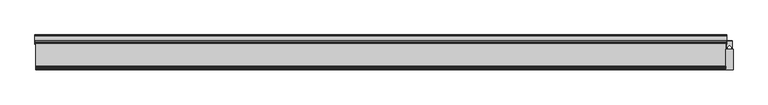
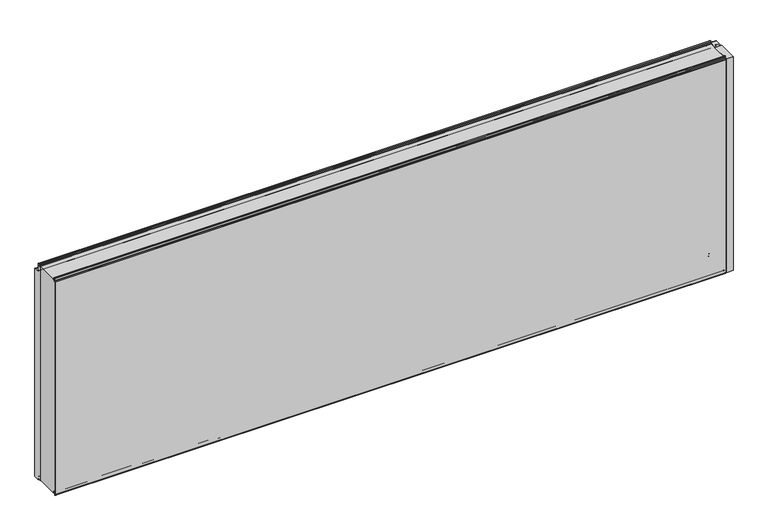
"""IFC4 building model written with IfcOpenShell, lengths in millimetres: plate geometry, Fronttop : Fronttop 150/1000."""

import ifcopenshell
import ifcopenshell.guid

model = None  # the IFC model being written
_history = None  # IfcOwnerHistory: only IFC2X3 demands one
_inside = {}  # id of a spatial element -> (the spatial element, [elements in it])
_under = {}  # id of a project, library or spatial element -> (it, [spatial elements below it])
_declared = {}  # id of a project -> (the project, [libraries it declares])
_typed = {}  # id of a type object -> (the type object, [elements of that type])
_made_of = {}  # id of a material, layer set ... -> (it, [elements and type objects made of it])


def new_model(schema):
    """Start an empty IFC model of exactly this schema.

    Asked for "IFC4X3", IfcOpenShell would pick the latest addendum, in which some entities
    have other attributes; the version numbers below select the first issue.
    IFC2X3 requires an IfcOwnerHistory on every rooted entity: one is made here for all.
    """
    global model, _history
    if schema == "IFC4X3":
        model = ifcopenshell.file(schema_version=(4, 3, 0, 0))
    else:
        model = ifcopenshell.file(schema=schema)
    _inside.clear()
    _under.clear()
    _declared.clear()
    _typed.clear()
    _made_of.clear()
    _history = None
    if model.schema == "IFC2X3":
        org = make("IfcOrganization", Name="unknown")
        user = make(
            "IfcPersonAndOrganization",
            ThePerson=make("IfcPerson", FamilyName="unknown"),
            TheOrganization=org,
        )
        app = make(
            "IfcApplication",
            ApplicationDeveloper=org,
            Version="unknown",
            ApplicationFullName="unknown",
            ApplicationIdentifier="unknown",
        )
        _history = make(
            "IfcOwnerHistory",
            OwningUser=user,
            OwningApplication=app,
            ChangeAction="ADDED",
            CreationDate=0,
        )
    return model


def make(cls, **values):
    """One entity of the class cls with the attributes given. An attribute that is None is left unset."""
    return model.create_entity(
        cls, **{name: value for name, value in values.items() if value is not None}
    )


def rooted(cls, **values):
    """An entity with a GlobalId (a new one), such as an element, a storey or a relation."""
    return make(cls, GlobalId=ifcopenshell.guid.new(), OwnerHistory=_history, **values)


def si_unit(unit_type, name, prefix=None):
    """IfcSIUnit, for example si_unit("LENGTHUNIT", "METRE", prefix="MILLI")."""
    return make("IfcSIUnit", UnitType=unit_type, Prefix=prefix, Name=name)


def assignment(units):
    """IfcUnitAssignment: the units of a project."""
    return None if units is None else make("IfcUnitAssignment", Units=units)


def point(xyz):
    """IfcCartesianPoint."""
    return None if xyz is None else make("IfcCartesianPoint", Coordinates=xyz)


def direction(xyz):
    """IfcDirection."""
    return None if xyz is None else make("IfcDirection", DirectionRatios=xyz)


def frame(location, z_axis=None, x_axis=None):
    """IfcAxis2Placement3D, a coordinate frame: its origin and axes. An axis left out is left unset."""
    return make(
        "IfcAxis2Placement3D",
        Location=point(location),
        Axis=direction(z_axis),
        RefDirection=direction(x_axis),
    )


def frame_2d(location, x_axis=None):
    """IfcAxis2Placement2D, a coordinate frame in the plane: its origin and x axis."""
    return make(
        "IfcAxis2Placement2D", Location=point(location), RefDirection=direction(x_axis)
    )


def origin():
    """The frame at (0, 0, 0) with its axes left unset."""
    return frame((0.0, 0.0, 0.0))


def origin_with_axes():
    """The frame at (0, 0, 0) with the z axis (0, 0, 1) and the x axis (1, 0, 0) written out."""
    return frame((0.0, 0.0, 0.0), z_axis=(0.0, 0.0, 1.0), x_axis=(1.0, 0.0, 0.0))


def place(relative_to, where):
    """IfcLocalPlacement: puts the frame where relative to a parent placement (None: the world)."""
    return make(
        "IfcLocalPlacement", PlacementRelTo=relative_to, RelativePlacement=where
    )


def context(
    kind, dimensions, precision=None, world=None, true_north=None, identifier=None
):
    """IfcGeometricRepresentationContext, for example the 3D "Model" context."""
    return make(
        "IfcGeometricRepresentationContext",
        ContextIdentifier=identifier,
        ContextType=kind,
        CoordinateSpaceDimension=dimensions,
        Precision=precision,
        WorldCoordinateSystem=world,
        TrueNorth=true_north,
    )


def project(units=None, contexts=None):
    """IfcProject with its units and contexts."""
    return rooted(
        "IfcProject",
        Name="project",
        RepresentationContexts=contexts,
        UnitsInContext=assignment(units),
    )


def spatial(cls, under=None, at=None, **own):
    """A site, building, storey or space (cls), placed at a placement, below another one or the project."""
    s = rooted(cls, ObjectPlacement=at, **own)
    if under is not None:
        _under.setdefault(under.id(), (under, []))[1].append(s)
    return s


def polyline(points):
    """IfcPolyline through the points."""
    return make("IfcPolyline", Points=[point(p) for p in points])


def circle_curve(where, radius):
    """IfcCircle in the frame where."""
    return make("IfcCircle", Position=where, Radius=radius)


def trimmed(basis, trim1, trim2, sense, master):
    """IfcTrimmedCurve: the piece of a basis curve between two trims."""
    return make(
        "IfcTrimmedCurve",
        BasisCurve=basis,
        Trim1=trim1,
        Trim2=trim2,
        SenseAgreement=sense,
        MasterRepresentation=master,
    )


def segment(curve, same_sense, transition):
    """IfcCompositeCurveSegment."""
    return make(
        "IfcCompositeCurveSegment",
        Transition=transition,
        SameSense=same_sense,
        ParentCurve=curve,
    )


def composite_curve(segments, self_intersect=None):
    """IfcCompositeCurve: segments joined end to end."""
    return make("IfcCompositeCurve", Segments=segments, SelfIntersect=self_intersect)


def outline(outer, holes=None, kind="AREA"):
    """IfcArbitraryClosedProfileDef: a profile drawn as a closed curve; with holes, ...WithVoids."""
    if holes is None:
        return make("IfcArbitraryClosedProfileDef", ProfileType=kind, OuterCurve=outer)
    return make(
        "IfcArbitraryProfileDefWithVoids",
        ProfileType=kind,
        OuterCurve=outer,
        InnerCurves=holes,
    )


def extrude(swept, where, along, depth):
    """IfcExtrudedAreaSolid: the profile swept, set in the frame where, extruded along a direction by depth."""
    return make(
        "IfcExtrudedAreaSolid",
        SweptArea=swept,
        Position=where,
        ExtrudedDirection=direction(along),
        Depth=depth,
    )


def shape(context_of_items, identifier, shape_type, items):
    """IfcShapeRepresentation: the items that make up one representation, for example the "Body"."""
    return make(
        "IfcShapeRepresentation",
        ContextOfItems=context_of_items,
        RepresentationIdentifier=identifier,
        RepresentationType=shape_type,
        Items=items,
    )


def source(mapping_origin, context_of_items, identifier, shape_type, items):
    """IfcRepresentationMap: a shape defined once, which mapped items show again and again."""
    return make(
        "IfcRepresentationMap",
        MappingOrigin=mapping_origin,
        MappedRepresentation=shape(context_of_items, identifier, shape_type, items),
    )


def transform(
    local_origin,
    x_axis=None,
    y_axis=None,
    z_axis=None,
    scale=None,
    scale2=None,
    scale3=None,
    uniform=True,
):
    """IfcCartesianTransformationOperator3D, or its non-uniform kind. x_axis, y_axis, z_axis: its Axis1, 2, 3."""
    if uniform:
        return make(
            "IfcCartesianTransformationOperator3D",
            Axis1=direction(x_axis),
            Axis2=direction(y_axis),
            LocalOrigin=point(local_origin),
            Scale=scale,
            Axis3=direction(z_axis),
        )
    return make(
        "IfcCartesianTransformationOperator3DnonUniform",
        Axis1=direction(x_axis),
        Axis2=direction(y_axis),
        LocalOrigin=point(local_origin),
        Scale=scale,
        Axis3=direction(z_axis),
        Scale2=scale2,
        Scale3=scale3,
    )


def mapped(mapping_source, mapping_target):
    """IfcMappedItem: shows the shape of a source again, moved by a transform."""
    return make(
        "IfcMappedItem", MappingSource=mapping_source, MappingTarget=mapping_target
    )


def made_of(thing, what):
    """Note that an element or type object is made of a material, layer set ...; save() writes the relation."""
    if what is not None:
        _made_of.setdefault(what.id(), (what, []))[1].append(thing)
    return thing


def element(
    cls,
    number,
    at=None,
    inside=None,
    cuts=None,
    type_object=None,
    material=None,
    context=None,
    identifier="Body",
    shape_type=None,
    held_by="IfcProductDefinitionShape",
    body=None,
    shapes=None,
    **own,
):
    """One element of the class cls, such as IfcWall. Its Tag is "e" and its number.

    at: its placement. inside: the storey or other place that contains it. cuts: it is an
    opening in that element (IfcRelVoidsElement). A single representation is given by context,
    identifier, shape_type and body (its items); several are given by shapes. held_by: the class
    of the entity that holds the representations. save() writes the other relations.
    """
    e = rooted(cls, Tag="e%d" % number, ObjectPlacement=at, **own)
    if body is not None:
        shapes = [shape(context, identifier, shape_type, body)]
    if shapes is not None:
        e.Representation = make(held_by, Representations=shapes)
    if inside is not None:
        _inside.setdefault(inside.id(), (inside, []))[1].append(e)
    if cuts is not None:
        rooted(
            "IfcRelVoidsElement", RelatingBuildingElement=cuts, RelatedOpeningElement=e
        )
    if type_object is not None:
        _typed.setdefault(type_object.id(), (type_object, []))[1].append(e)
    return made_of(e, material)


def aggregate(whole, parts):
    """IfcRelAggregates: a whole, such as a stair, and the parts it consists of."""
    return rooted("IfcRelAggregates", RelatingObject=whole, RelatedObjects=parts)


def save(model, path):
    """Write the relations noted so far, then the file.

    IfcRelAggregates (storeys below a building ...), IfcRelContainedInSpatialStructure (elements
    in a storey), IfcRelDefinesByType, IfcRelAssociatesMaterial and IfcRelDeclares: one each for
    every whole, place, type object, material and project.
    """
    for whole, parts in _under.values():
        aggregate(whole, parts)
    for where, things in _inside.values():
        rooted(
            "IfcRelContainedInSpatialStructure",
            RelatedElements=things,
            RelatingStructure=where,
        )
    for kind, things in _typed.values():
        rooted("IfcRelDefinesByType", RelatedObjects=things, RelatingType=kind)
    for what, things in _made_of.values():
        rooted("IfcRelAssociatesMaterial", RelatedObjects=things, RelatingMaterial=what)
    for by, libraries in _declared.values():
        rooted("IfcRelDeclares", RelatingContext=by, RelatedDefinitions=libraries)
    model.write(path)


def plane_surface(at):
    """IfcPlane: the flat surface through the origin of the frame at, square to its z axis."""
    return make("IfcPlane", Position=at)


def cylinder_surface(at, radius):
    """IfcCylindricalSurface: all points at the distance radius from the z axis of the frame at."""
    return make("IfcCylindricalSurface", Position=at, Radius=radius)


def revolved_surface(curve, axis_point, axis_direction):
    """IfcSurfaceOfRevolution: the curve turned about the line through axis_point along axis_direction."""
    return make(
        "IfcSurfaceOfRevolution",
        SweptCurve=make("IfcArbitraryOpenProfileDef", ProfileType="CURVE", Curve=curve),
        AxisPosition=make("IfcAxis1Placement", Location=point(axis_point), Axis=direction(axis_direction)),
    )


def advanced_brep(points, edges, surfaces, faces):
    """IfcAdvancedBrep: a solid bounded by faces that lie on surfaces and meet in shared edges.

    An edge is (start, end): straight between two places in points (the first is 0);
    or (start, end, curve); or (start, end, curve, False) where it runs against its curve.
    A face is (place in surfaces, loops), or (place, loops, False) where it looks against
    its surface's normal. A loop lists edges by number (the first is 1), with a minus sign
    where the edge is run from its end to its start. The first loop is the outer one.
    """
    corners = [point(p) for p in points]
    vertices = [make("IfcVertexPoint", VertexGeometry=c) for c in corners]
    made = []
    for start, end, *more in edges:
        made.append(
            make(
                "IfcEdgeCurve",
                EdgeStart=vertices[start],
                EdgeEnd=vertices[end],
                EdgeGeometry=more[0] if more else make("IfcPolyline", Points=[corners[start], corners[end]]),
                SameSense=more[1] if len(more) > 1 else True,
            )
        )
    hull = []
    for where, loops, *sense in faces:
        bounds = []
        for j, loop in enumerate(loops):
            ring = [make("IfcOrientedEdge", EdgeElement=made[abs(k) - 1], Orientation=k > 0) for k in loop]
            bounds.append(
                make(
                    "IfcFaceOuterBound" if j == 0 else "IfcFaceBound",
                    Bound=make("IfcEdgeLoop", EdgeList=ring),
                    Orientation=True,
                )
            )
        hull.append(make("IfcAdvancedFace", Bounds=bounds, FaceSurface=surfaces[where], SameSense=sense[0] if sense else True))
    return make("IfcAdvancedBrep", Outer=make("IfcClosedShell", CfsFaces=hull))


def plate_9b882203(model_context):
    return source(origin(), model_context, "Body", "SolidModel", [
        advanced_brep(
        [(-1486.5, 124.0, 1008.0), (-1486.5, 121.0, 1008.0), (-1486.5, 121.0, 1004.0), (-1486.5, 117.0, 1000.0), (-1486.5, 115.0, 1000.0), (-1486.5, 115.0, 1001.0), (-1486.5, 117.0, 1001.0), (-1486.5, 120.0, 1004.0), (-1486.5, 120.0, 1008.0), (-1486.5, 125.0, 1008.0), (-1486.5, 125.0, 1000.0), (-1486.5, 124.0, 1000.0), (1486.5, 125.0, 1008.0), (1486.5, 120.0, 1008.0), (1486.5, 120.0, 1004.0), (1486.5, 117.0, 1001.0), (1486.5, 115.0, 1001.0), (1486.5, 115.0, 1000.0), (1486.5, 117.0, 1000.0), (1486.5, 121.0, 1004.0), (1486.5, 121.0, 1008.0), (1486.5, 124.0, 1008.0), (1486.5, 124.0, 1000.0), (1486.5, 125.0, 1000.0), (-1486.5, 117.0, 2.0), (1486.5, 117.0, 2.0), (1486.5, 115.0, 2.0), (-1486.5, 115.0, 2.0), (-1486.5, 119.0, 4.0), (1486.5, 119.0, 4.0), (-1486.5, 119.0, 8.0), (1486.5, 119.0, 8.0), (-1486.5, 126.0, 8.0), (1486.5, 126.0, 8.0), (-1486.5, 126.0, 0.0), (1486.5, 126.0, 0.0), (-1486.5, 129.0, -3.0), (1486.5, 129.0, -3.0), (-1486.5, 125.0, -3.0), (-1487.5, 125.0, -3.0), (-1487.5, 147.0, -3.0), (-1486.5, 147.0, -3.0), (1486.5, 147.0, -3.0), (1487.5, 147.0, -3.0), (1487.5, 125.0, -3.0), (1486.5, 125.0, -3.0), (-1486.5, 150.0, 0.0), (1486.5, 150.0, 0.0), (-1487.5, 150.0, 0.0), (-1487.5, 150.0, 969.0), (-1486.5, 150.0, 969.0), (1486.5, 150.0, 969.0), (1487.5, 150.0, 969.0), (1487.5, 150.0, 0.0), (-1486.5, 147.0, 972.0), (1486.5, 147.0, 972.0), (-1487.5, 147.0, 972.0), (-1487.5, 128.0, 972.0), (-1486.5, 128.0, 972.0), (1486.5, 128.0, 972.0), (1487.5, 128.0, 972.0), (1487.5, 147.0, 972.0), (-1486.5, 125.0, 975.0), (1486.5, 125.0, 975.0), (-1487.5, 125.0, 975.0), (-1487.5, 125.0, 1000.0), (1487.5, 125.0, 1000.0), (1487.5, 125.0, 975.0), (-1486.5, 124.0, 975.0), (1486.5, 124.0, 975.0), (-1486.5, 128.0, 971.0), (1486.5, 128.0, 971.0), (-1486.5, 147.0, 971.0), (1486.5, 147.0, 971.0), (-1486.5, 149.0, 969.0), (1486.5, 149.0, 969.0), (-1486.5, 149.0, 0.0), (1486.5, 149.0, 0.0), (-1486.5, 147.0, -2.0), (1486.5, 147.0, -2.0), (-1486.5, 129.0, -2.0), (1486.5, 129.0, -2.0), (-1486.5, 127.0, 0.0), (1486.5, 127.0, 0.0), (-1486.5, 127.0, 8.0), (1486.5, 127.0, 8.0), (-1486.5, 118.0, 8.0), (1486.5, 118.0, 8.0), (-1486.5, 118.0, 4.0), (1486.5, 118.0, 4.0), (-1486.5, 117.0, 3.0), (1486.5, 117.0, 3.0), (-1486.5, 115.0, 3.0), (1486.5, 115.0, 3.0), (1487.5, 110.0, 1000.0), (1487.5, 110.0, 0.0), (1487.5, 125.0, 0.0), (1486.5, 125.0, 0.0), (1486.5, 110.0, 0.0), (1486.5, 110.0, 1000.0), (-1487.5, 125.0, 0.0), (-1487.5, 110.0, 0.0), (-1487.5, 110.0, 1000.0), (-1486.5, 110.0, 1000.0), (-1486.5, 110.0, 0.0), (-1486.5, 125.0, 0.0)],
        [
            (0, 1, circle_curve(frame((-1486.5, 122.5, 1008.0), z_axis=(1.0, 0.0, 0.0), x_axis=(0.0, -1.0, 0.0)), 1.5)),
            (1, 2),
            (2, 3, circle_curve(frame((-1486.5, 117.0, 1004.0), z_axis=(-1.0, 0.0, 0.0), x_axis=(0.0, -1.0, 0.0)), 4.0)),
            (3, 4),
            (4, 5),
            (5, 6),
            (6, 7, circle_curve(frame((-1486.5, 117.0, 1004.0), z_axis=(1.0, 0.0, 0.0), x_axis=(0.0, -1.0, 0.0)), 3.0)),
            (7, 8),
            (8, 9, circle_curve(frame((-1486.5, 122.5, 1008.0), z_axis=(-1.0, 0.0, 0.0), x_axis=(0.0, -1.0, 0.0)), 2.5)),
            (9, 10),
            (10, 11),
            (11, 0),
            (12, 13, circle_curve(frame((1486.5, 122.5, 1008.0), z_axis=(1.0, 0.0, 0.0), x_axis=(0.0, -1.0, 0.0)), 2.5)),
            (13, 14),
            (14, 15, circle_curve(frame((1486.5, 117.0, 1004.0), z_axis=(-1.0, 0.0, 0.0), x_axis=(0.0, -1.0, 0.0)), 3.0)),
            (15, 16),
            (16, 17),
            (17, 18),
            (18, 19, circle_curve(frame((1486.5, 117.0, 1004.0), z_axis=(1.0, 0.0, 0.0), x_axis=(0.0, -1.0, 0.0)), 4.0)),
            (19, 20),
            (20, 21, circle_curve(frame((1486.5, 122.5, 1008.0), z_axis=(-1.0, 0.0, 0.0), x_axis=(0.0, -1.0, 0.0)), 1.5)),
            (21, 22),
            (22, 23),
            (23, 12),
            (24, 25),
            (25, 26),
            (26, 27),
            (27, 24),
            (24, 28, circle_curve(frame((-1486.5, 117.0, 4.0), z_axis=(1.0, 0.0, 0.0), x_axis=(0.0, -1.0, 0.0)), 2.0)),
            (28, 29),
            (29, 25, circle_curve(frame((1486.5, 117.0, 4.0), z_axis=(-1.0, 0.0, 0.0), x_axis=(0.0, -1.0, 0.0)), 2.0)),
            (28, 30),
            (30, 31),
            (31, 29),
            (30, 32, circle_curve(frame((-1486.5, 122.5, 8.0), z_axis=(-1.0, 0.0, 0.0), x_axis=(0.0, -1.0, 0.0)), 3.5)),
            (32, 33),
            (33, 31, circle_curve(frame((1486.5, 122.5, 8.0), z_axis=(1.0, 0.0, 0.0), x_axis=(0.0, -1.0, 0.0)), 3.5)),
            (32, 34),
            (34, 35),
            (35, 33),
            (34, 36, circle_curve(frame((-1486.5, 129.0, 0.0), z_axis=(1.0, 0.0, 0.0), x_axis=(0.0, -1.0, 0.0)), 3.0)),
            (36, 37),
            (37, 35, circle_curve(frame((1486.5, 129.0, 0.0), z_axis=(-1.0, 0.0, 0.0), x_axis=(0.0, -1.0, 0.0)), 3.0)),
            (36, 38),
            (38, 39),
            (39, 40),
            (40, 41),
            (41, 42),
            (42, 43),
            (43, 44),
            (44, 45),
            (45, 37),
            (41, 46, circle_curve(frame((-1486.5, 147.0, 0.0), z_axis=(1.0, 0.0, 0.0), x_axis=(0.0, -1.0, 0.0)), 3.0)),
            (46, 47),
            (47, 42, circle_curve(frame((1486.5, 147.0, 0.0), z_axis=(-1.0, 0.0, 0.0), x_axis=(0.0, -1.0, 0.0)), 3.0)),
            (46, 48),
            (48, 49),
            (49, 50),
            (50, 51),
            (51, 52),
            (52, 53),
            (53, 47),
            (50, 54, circle_curve(frame((-1486.5, 147.0, 969.0), z_axis=(1.0, 0.0, 0.0), x_axis=(0.0, -1.0, 0.0)), 3.0)),
            (54, 55),
            (55, 51, circle_curve(frame((1486.5, 147.0, 969.0), z_axis=(-1.0, 0.0, 0.0), x_axis=(0.0, -1.0, 0.0)), 3.0)),
            (54, 56),
            (56, 57),
            (57, 58),
            (58, 59),
            (59, 60),
            (60, 61),
            (61, 55),
            (58, 62, circle_curve(frame((-1486.5, 128.0, 975.0), z_axis=(-1.0, 0.0, 0.0), x_axis=(0.0, -1.0, 0.0)), 3.0)),
            (62, 63),
            (63, 59, circle_curve(frame((1486.5, 128.0, 975.0), z_axis=(1.0, 0.0, 0.0), x_axis=(0.0, -1.0, 0.0)), 3.0)),
            (62, 64),
            (64, 65),
            (65, 10),
            (9, 12),
            (23, 66),
            (66, 67),
            (67, 63),
            (8, 13),
            (7, 14),
            (6, 15),
            (5, 16),
            (4, 17),
            (4, 3),
            (3, 18),
            (18, 17),
            (2, 19),
            (1, 20),
            (0, 21),
            (11, 68),
            (68, 69),
            (69, 22),
            (68, 70, circle_curve(frame((-1486.5, 128.0, 975.0), z_axis=(1.0, 0.0, 0.0), x_axis=(0.0, -1.0, 0.0)), 4.0)),
            (70, 71),
            (71, 69, circle_curve(frame((1486.5, 128.0, 975.0), z_axis=(-1.0, 0.0, 0.0), x_axis=(0.0, -1.0, 0.0)), 4.0)),
            (70, 72),
            (72, 73),
            (73, 71),
            (72, 74, circle_curve(frame((-1486.5, 147.0, 969.0), z_axis=(-1.0, 0.0, 0.0), x_axis=(0.0, -1.0, 0.0)), 2.0)),
            (74, 75),
            (75, 73, circle_curve(frame((1486.5, 147.0, 969.0), z_axis=(1.0, 0.0, 0.0), x_axis=(0.0, -1.0, 0.0)), 2.0)),
            (74, 76),
            (76, 77),
            (77, 75),
            (76, 78, circle_curve(frame((-1486.5, 147.0, 0.0), z_axis=(-1.0, 0.0, 0.0), x_axis=(0.0, -1.0, 0.0)), 2.0)),
            (78, 79),
            (79, 77, circle_curve(frame((1486.5, 147.0, 0.0), z_axis=(1.0, 0.0, 0.0), x_axis=(0.0, -1.0, 0.0)), 2.0)),
            (78, 80),
            (80, 81),
            (81, 79),
            (80, 82, circle_curve(frame((-1486.5, 129.0, 0.0), z_axis=(-1.0, 0.0, 0.0), x_axis=(0.0, -1.0, 0.0)), 2.0)),
            (82, 83),
            (83, 81, circle_curve(frame((1486.5, 129.0, 0.0), z_axis=(1.0, 0.0, 0.0), x_axis=(0.0, -1.0, 0.0)), 2.0)),
            (82, 84),
            (84, 85),
            (85, 83),
            (84, 86, circle_curve(frame((-1486.5, 122.5, 8.0), z_axis=(1.0, 0.0, 0.0), x_axis=(0.0, -1.0, 0.0)), 4.5)),
            (86, 87),
            (87, 85, circle_curve(frame((1486.5, 122.5, 8.0), z_axis=(-1.0, 0.0, 0.0), x_axis=(0.0, -1.0, 0.0)), 4.5)),
            (86, 88),
            (88, 89),
            (89, 87),
            (88, 90, circle_curve(frame((-1486.5, 117.0, 4.0), z_axis=(-1.0, 0.0, 0.0), x_axis=(0.0, -1.0, 0.0)), 1.0)),
            (90, 91),
            (91, 89, circle_curve(frame((1486.5, 117.0, 4.0), z_axis=(1.0, 0.0, 0.0), x_axis=(0.0, -1.0, 0.0)), 1.0)),
            (90, 92),
            (92, 93),
            (93, 91),
            (26, 93),
            (92, 27),
            (66, 94),
            (94, 95),
            (95, 96),
            (96, 44),
            (43, 53, circle_curve(frame((1487.5, 147.0, 0.0), z_axis=(1.0, 0.0, 0.0), x_axis=(0.0, 1.0, 0.0)), 3.0)),
            (52, 61, circle_curve(frame((1487.5, 147.0, 969.0), z_axis=(1.0, 0.0, 0.0), x_axis=(0.0, 1.0, 0.0)), 3.0)),
            (60, 67, circle_curve(frame((1487.5, 128.0, 975.0), z_axis=(-1.0, 0.0, 0.0), x_axis=(0.0, 1.0, 0.0)), 3.0)),
            (45, 97),
            (97, 98),
            (98, 99),
            (99, 17),
            (18, 22),
            (99, 94),
            (98, 95),
            (97, 96),
            (64, 57, circle_curve(frame((-1487.5, 128.0, 975.0), z_axis=(1.0, 0.0, 0.0), x_axis=(0.0, 1.0, 0.0)), 3.0)),
            (56, 49, circle_curve(frame((-1487.5, 147.0, 969.0), z_axis=(-1.0, 0.0, 0.0), x_axis=(0.0, 1.0, 0.0)), 3.0)),
            (48, 40, circle_curve(frame((-1487.5, 147.0, 0.0), z_axis=(-1.0, 0.0, 0.0), x_axis=(0.0, 1.0, 0.0)), 3.0)),
            (39, 100),
            (100, 101),
            (101, 102),
            (102, 65),
            (103, 104),
            (104, 105),
            (105, 38),
            (11, 3),
            (4, 103),
            (102, 103),
            (101, 104),
            (100, 105),
        ],
        [
            plane_surface(frame((-1486.5, 0.0, 0.0), z_axis=(-1.0, 0.0, 0.0), x_axis=(0.0, 0.0, 1.0))),
            plane_surface(frame((1486.5, 0.0, 0.0), z_axis=(1.0, 0.0, 0.0), x_axis=(0.0, 0.0, 1.0))),
            plane_surface(frame((-1486.5, 117.0, 2.0), z_axis=(0.0, 0.0, -1.0), x_axis=(1.0, 0.0, 0.0))),
            cylinder_surface(frame((-1486.5, 117.0, 4.0), z_axis=(-1.0, 0.0, 0.0), x_axis=(0.0, -1.0, 0.0)), 2.0),
            plane_surface(frame((-1486.5, 119.0, 8.0), z_axis=(0.0, 1.0, 0.0), x_axis=(1.0, 0.0, 0.0))),
            revolved_surface(polyline([(1486.5, 119.0, 8.0), (-1486.5, 119.0, 8.0)]), (-1486.5, 122.5, 8.0), (1.0, 0.0, 0.0)),
            plane_surface(frame((-1486.5, 126.0, 0.0), z_axis=(0.0, -1.0, 0.0), x_axis=(1.0, 0.0, 0.0))),
            cylinder_surface(frame((-1486.5, 129.0, 0.0), z_axis=(-1.0, 0.0, 0.0), x_axis=(0.0, -1.0, 0.0)), 3.0),
            plane_surface(frame((-1486.5, 147.0, -3.0), z_axis=(0.0, 0.0, -1.0), x_axis=(1.0, 0.0, 0.0))),
            cylinder_surface(frame((-1486.5, 147.0, 0.0), z_axis=(-1.0, 0.0, 0.0), x_axis=(0.0, -1.0, 0.0)), 3.0),
            plane_surface(frame((-1486.5, 150.0, 969.0), z_axis=(0.0, 1.0, 0.0), x_axis=(1.0, 0.0, 0.0))),
            cylinder_surface(frame((-1486.5, 147.0, 969.0), z_axis=(-1.0, 0.0, 0.0), x_axis=(0.0, -1.0, 0.0)), 3.0),
            plane_surface(frame((-1486.5, 128.0, 972.0), z_axis=(0.0, 0.0, 1.0), x_axis=(1.0, 0.0, 0.0))),
            revolved_surface(polyline([(1486.5, 125.0, 975.0), (-1486.5, 125.0, 975.0)]), (-1486.5, 128.0, 975.0), (1.0, 0.0, 0.0)),
            plane_surface(frame((-1486.5, 125.0, 1008.0), z_axis=(0.0, 1.0, 0.0), x_axis=(1.0, 0.0, 0.0))),
            cylinder_surface(frame((-1486.5, 122.5, 1008.0), z_axis=(-1.0, 0.0, 0.0), x_axis=(0.0, -1.0, 0.0)), 2.5),
            plane_surface(frame((-1486.5, 120.0, 1004.0), z_axis=(0.0, -1.0, 0.0), x_axis=(1.0, 0.0, 0.0))),
            revolved_surface(polyline([(1486.5, 114.0, 1004.0), (-1486.5, 114.0, 1004.0)]), (-1486.5, 117.0, 1004.0), (1.0, 0.0, 0.0)),
            plane_surface(frame((-1486.5, 115.0, 1001.0), z_axis=(0.0, 0.0, 1.0), x_axis=(1.0, 0.0, 0.0))),
            plane_surface(frame((-1486.5, 115.0, 1000.0), z_axis=(0.0, -1.0, 0.0), x_axis=(1.0, 0.0, 0.0))),
            plane_surface(frame((-1486.5, 117.0, 1000.0), z_axis=(0.0, 0.0, -1.0), x_axis=(1.0, 0.0, 0.0))),
            cylinder_surface(frame((-1486.5, 117.0, 1004.0), z_axis=(-1.0, 0.0, 0.0), x_axis=(0.0, -1.0, 0.0)), 4.0),
            plane_surface(frame((-1486.5, 121.0, 1008.0), z_axis=(0.0, 1.0, 0.0), x_axis=(1.0, 0.0, 0.0))),
            revolved_surface(polyline([(1486.5, 121.0, 1008.0), (-1486.5, 121.0, 1008.0)]), (-1486.5, 122.5, 1008.0), (1.0, 0.0, 0.0)),
            plane_surface(frame((-1486.5, 124.0, 975.0), z_axis=(0.0, -1.0, 0.0), x_axis=(1.0, 0.0, 0.0))),
            cylinder_surface(frame((-1486.5, 128.0, 975.0), z_axis=(-1.0, 0.0, 0.0), x_axis=(0.0, -1.0, 0.0)), 4.0),
            plane_surface(frame((-1486.5, 147.0, 971.0), z_axis=(0.0, 0.0, -1.0), x_axis=(1.0, 0.0, 0.0))),
            revolved_surface(polyline([(1486.5, 145.0, 969.0), (-1486.5, 145.0, 969.0)]), (-1486.5, 147.0, 969.0), (1.0, 0.0, 0.0)),
            plane_surface(frame((-1486.5, 149.0, 0.0), z_axis=(0.0, -1.0, 0.0), x_axis=(1.0, 0.0, 0.0))),
            revolved_surface(polyline([(1486.5, 145.0, 0.0), (-1486.5, 145.0, 0.0)]), (-1486.5, 147.0, 0.0), (1.0, 0.0, 0.0)),
            plane_surface(frame((-1486.5, 129.0, -2.0), z_axis=(0.0, 0.0, 1.0), x_axis=(1.0, 0.0, 0.0))),
            revolved_surface(polyline([(1486.5, 127.0, 0.0), (-1486.5, 127.0, 0.0)]), (-1486.5, 129.0, 0.0), (1.0, 0.0, 0.0)),
            plane_surface(frame((-1486.5, 127.0, 8.0), z_axis=(0.0, 1.0, 0.0), x_axis=(1.0, 0.0, 0.0))),
            cylinder_surface(frame((-1486.5, 122.5, 8.0), z_axis=(-1.0, 0.0, 0.0), x_axis=(0.0, -1.0, 0.0)), 4.5),
            plane_surface(frame((-1486.5, 118.0, 4.0), z_axis=(0.0, -1.0, 0.0), x_axis=(1.0, 0.0, 0.0))),
            revolved_surface(polyline([(1486.5, 116.0, 4.0), (-1486.5, 116.0, 4.0)]), (-1486.5, 117.0, 4.0), (1.0, 0.0, 0.0)),
            plane_surface(frame((-1486.5, 115.0, 3.0), z_axis=(0.0, 0.0, 1.0), x_axis=(1.0, 0.0, 0.0))),
            plane_surface(frame((-1486.5, 115.0, 2.0), z_axis=(0.0, -1.0, 0.0), x_axis=(1.0, 0.0, 0.0))),
            plane_surface(frame((1487.5, 125.0, 1000.0), z_axis=(1.0, 0.0, 0.0), x_axis=(0.0, -1.0, 0.0))),
            plane_surface(frame((1486.5, 125.0, 1000.0), z_axis=(-1.0, 0.0, 0.0), x_axis=(0.0, 1.0, 0.0))),
            plane_surface(frame((1487.5, 125.0, 1000.0), z_axis=(0.0, 0.0, 1.0), x_axis=(-1.0, 0.0, 0.0))),
            plane_surface(frame((1487.5, 110.0, 1000.0), z_axis=(0.0, -1.0, 0.0), x_axis=(-1.0, 0.0, 0.0))),
            plane_surface(frame((1487.5, 110.0, 0.0), z_axis=(0.0, 0.0, -1.0), x_axis=(-1.0, 0.0, 0.0))),
            cylinder_surface(frame((1486.5, 147.0, 0.0), z_axis=(1.0, 0.0, 0.0), x_axis=(0.0, 1.0, 0.0)), 3.0),
            cylinder_surface(frame((1486.5, 147.0, 969.0), z_axis=(1.0, 0.0, 0.0), x_axis=(0.0, 1.0, 0.0)), 3.0),
            revolved_surface(polyline([(1486.5, 131.0, 975.0), (1487.5, 131.0, 975.0)]), (1486.5, 128.0, 975.0), (-1.0, 0.0, 0.0)),
            plane_surface(frame((-1487.5, 125.0, 1000.0), z_axis=(-1.0, 0.0, 0.0), x_axis=(0.0, 1.0, 0.0))),
            plane_surface(frame((-1486.5, 125.0, 1000.0), z_axis=(1.0, 0.0, 0.0), x_axis=(0.0, -1.0, 0.0))),
            plane_surface(frame((-1486.5, 125.0, 1000.0), z_axis=(0.0, 0.0, 1.0), x_axis=(-1.0, 0.0, 0.0))),
            plane_surface(frame((-1486.5, 110.0, 1000.0), z_axis=(0.0, -1.0, 0.0), x_axis=(-1.0, 0.0, 0.0))),
            plane_surface(frame((-1486.5, 110.0, 0.0), z_axis=(0.0, 0.0, -1.0), x_axis=(-1.0, 0.0, 0.0))),
            cylinder_surface(frame((-1487.5, 147.0, 0.0), z_axis=(1.0, 0.0, 0.0), x_axis=(0.0, 1.0, 0.0)), 3.0),
            cylinder_surface(frame((-1487.5, 147.0, 969.0), z_axis=(1.0, 0.0, 0.0), x_axis=(0.0, 1.0, 0.0)), 3.0),
            revolved_surface(polyline([(-1487.5, 131.0, 975.0), (-1486.5, 131.0, 975.0)]), (-1487.5, 128.0, 975.0), (-1.0, 0.0, 0.0)),
            plane_surface(frame((1487.5, 125.0, 0.0), z_axis=(0.0, -1.0, 0.0), x_axis=(-1.0, 0.0, 0.0))),
            plane_surface(frame((-1486.5, 125.0, 0.0), z_axis=(0.0, -1.0, 0.0), x_axis=(-1.0, 0.0, 0.0))),
        ],
        [
            (0, [[1, 2, 3, 4, 5, 6, 7, 8, 9, 10, 11, 12]]),
            (1, [[13, 14, 15, 16, 17, 18, 19, 20, 21, 22, 23, 24]]),
            (2, [[25, 26, 27, 28]]),
            (3, [[-25, 29, 30, 31]]),
            (4, [[-30, 32, 33, 34]]),
            (5, [[-33, 35, 36, 37]]),
            (6, [[-36, 38, 39, 40]]),
            (7, [[-39, 41, 42, 43]]),
            (8, [[-42, 44, 45, 46, 47, 48, 49, 50, 51, 52]]),
            (9, [[-48, 53, 54, 55]]),
            (10, [[-54, 56, 57, 58, 59, 60, 61, 62]]),
            (11, [[-59, 63, 64, 65]]),
            (12, [[-64, 66, 67, 68, 69, 70, 71, 72]]),
            (13, [[-69, 73, 74, 75]]),
            (14, [[-74, 76, 77, 78, -10, 79, -24, 80, 81, 82]]),
            (15, [[-9, 83, -13, -79]]),
            (16, [[-8, 84, -14, -83]]),
            (17, [[-7, 85, -15, -84]]),
            (18, [[-6, 86, -16, -85]]),
            (19, [[-5, 87, -17, -86]]),
            (20, [[-87, 88, 89, 90]]),
            (21, [[-3, 91, -19, -89]]),
            (22, [[-2, 92, -20, -91]]),
            (23, [[-1, 93, -21, -92]]),
            (24, [[-93, -12, 94, 95, 96, -22]]),
            (25, [[-95, 97, 98, 99]]),
            (26, [[-98, 100, 101, 102]]),
            (27, [[-101, 103, 104, 105]]),
            (28, [[-104, 106, 107, 108]]),
            (29, [[-107, 109, 110, 111]]),
            (30, [[-110, 112, 113, 114]]),
            (31, [[-113, 115, 116, 117]]),
            (32, [[-116, 118, 119, 120]]),
            (33, [[-119, 121, 122, 123]]),
            (34, [[-122, 124, 125, 126]]),
            (35, [[-125, 127, 128, 129]]),
            (36, [[-128, 130, 131, 132]]),
            (37, [[-27, 133, -131, 134]]),
            (38, [[135, 136, 137, 138, -50, 139, -61, 140, -71, 141, -81]]),
            (39, [[142, 143, 144, 145, -90, 146, -96, -99, -102, -105, -108, -111, -114, -117, -120, -123, -126, -129, -132, -133, -26, -31, -34, -37, -40, -43, -52]]),
            (40, [[-135, -80, -23, -146, -18, -145, 147]]),
            (41, [[-136, -147, -144, 148]]),
            (42, [[-137, -148, -143, 149]]),
            (43, [[-139, -49, -55, -62]]),
            (44, [[-140, -60, -65, -72]]),
            (45, [[-141, -70, -75, -82]]),
            (46, [[-77, 150, -67, 151, -57, 152, -46, 153, 154, 155, 156]]),
            (47, [[157, 158, 159, -44, -41, -38, -35, -32, -29, -28, -134, -130, -127, -124, -121, -118, -115, -112, -109, -106, -103, -100, -97, -94, 160, -88, 161]]),
            (48, [[-156, 162, -161, -4, -160, -11, -78]]),
            (49, [[-155, 163, -157, -162]]),
            (50, [[-154, 164, -158, -163]]),
            (51, [[-152, -56, -53, -47]]),
            (52, [[-151, -66, -63, -58]]),
            (53, [[-150, -76, -73, -68]]),
            (54, [[-138, -149, -142, -51]]),
            (55, [[-153, -45, -159, -164]]),
        ],
    ),
        extrude(outline(composite_curve([segment(polyline([(1487.4998455, 123.5), (1499.25, 123.5), (1499.25, 107.5), (1500.75, 107.5), (1500.75, 123.5), (1512.5001545, 123.5), (1512.5001545, 90.0), (1509.75, 90.0), (1509.75, 92.5)]), True, "CONTINUOUS"), segment(trimmed(circle_curve(frame_2d((1491.9661979, 89.3183984)), 18.0661619), [point((1509.75, 92.5))], [point((1500.0, 105.5))], True, "CARTESIAN"), True, "CONTINUOUS"), segment(trimmed(circle_curve(frame_2d((1508.0338021, 89.3183984)), 18.0661619), [point((1500.0, 105.5))], [point((1490.25, 92.5))], True, "CARTESIAN"), True, "CONTINUOUS"), segment(polyline([(1490.25, 92.5), (1490.25, 90.0), (1487.4998455, 90.0), (1487.4998455, 123.5)]), True, "CONTINUOUS")], self_intersect=False)), origin_with_axes(), (0.0, 0.0, 1.0), 1000.0),
        extrude(outline(polyline([(1515.5, 0.0), (1484.5, 0.0), (1484.5, 88.0), (1515.5, 88.0), (1515.5, 0.0)])), origin_with_axes(), (0.0, 0.0, 1.0), 1000.0),
        extrude(outline(polyline([(1488.4948846, 125.0), (1511.5051154, 125.0), (1511.5051154, 123.5), (1500.6502496, 123.5), (1500.6502496, 109.0759655), (1499.35, 109.0759655), (1499.35, 123.5), (1488.4948846, 123.5), (1488.4948846, 125.0)])), origin_with_axes(), (0.0, 0.0, 1.0), 1000.0),
        advanced_brep(
        [(-1484.5, 13.0, 1001.0), (-1484.5, 15.0, 1001.0), (-1484.5, 15.0, 1000.0), (-1484.5, 13.0, 1000.0), (-1484.5, 9.0, 1004.0), (-1484.5, 9.0, 1008.0), (-1484.5, 6.0, 1008.0), (-1484.5, 6.0, 999.5), (-1484.5, 2.1134897, 996.0214069), (-1484.5, 1.0, 995.0), (-1484.5, 1.0, -0.5), (-1484.5, 3.0, -0.5), (-1484.5, 3.0, 8.0), (-1484.5, 12.0, 8.0), (-1484.5, 12.0, 4.0), (-1484.5, 13.0, 3.0), (-1484.5, 15.0, 3.0), (-1484.5, 15.0, 2.0), (-1484.5, 13.0, 2.0), (-1484.5, 11.0, 4.0), (-1484.5, 11.0, 8.0), (-1484.5, 4.0, 8.0), (-1484.5, 4.0, -0.5), (-1484.5, 0.0, -0.5), (-1484.5, 0.0, 995.0), (-1484.5, 2.220863, 996.9877675), (-1484.5, 5.0, 999.5), (-1484.5, 5.0, 1008.0), (-1484.5, 10.0, 1008.0), (-1484.5, 10.0, 1004.0), (1484.5, 13.0, 1001.0), (1484.5, 10.0, 1004.0), (1484.5, 10.0, 1008.0), (1484.5, 5.0, 1008.0), (1484.5, 5.0, 999.5), (1484.5, 2.2239212, 997.0152907), (1484.5, 0.0, 995.0), (1484.5, 0.0, -0.5), (1484.5, 4.0, -0.5), (1484.5, 4.0, 8.0), (1484.5, 11.0, 8.0), (1484.5, 11.0, 4.0), (1484.5, 13.0, 2.0), (1484.5, 15.0, 2.0), (1484.5, 15.0, 3.0), (1484.5, 13.0, 3.0), (1484.5, 12.0, 4.0), (1484.5, 12.0, 8.0), (1484.5, 3.0, 8.0), (1484.5, 3.0, -0.5), (1484.5, 1.0, -0.5), (1484.5, 1.0, 995.0), (1484.5, 2.1104315, 995.9938837), (1484.5, 6.0, 999.5), (1484.5, 6.0, 1008.0), (1484.5, 9.0, 1008.0), (1484.5, 9.0, 1004.0), (1484.5, 13.0, 1000.0), (1484.5, 15.0, 1000.0), (1484.5, 15.0, 1001.0)],
        [
            (0, 1),
            (1, 2),
            (2, 3),
            (3, 4, circle_curve(frame((-1484.5, 13.0, 1004.0), z_axis=(-1.0, 0.0, 0.0), x_axis=(0.0, -1.0, 0.0)), 4.0)),
            (4, 5),
            (5, 6, circle_curve(frame((-1484.5, 7.5, 1008.0), z_axis=(1.0, 0.0, 0.0), x_axis=(0.0, -1.0, 0.0)), 1.5)),
            (6, 7),
            (7, 8, circle_curve(frame((-1484.5, 2.5, 999.5), z_axis=(-1.0, 0.0, 0.0), x_axis=(0.0, -1.0, 0.0)), 3.5)),
            (8, 9, circle_curve(frame((-1484.5, 2.0, 995.0), z_axis=(1.0, 0.0, 0.0), x_axis=(0.0, -1.0, 0.0)), 1.0)),
            (9, 10),
            (10, 11, circle_curve(frame((-1484.5, 2.0, -0.5), z_axis=(1.0, 0.0, 0.0), x_axis=(0.0, -1.0, 0.0)), 1.0)),
            (11, 12),
            (12, 13, circle_curve(frame((-1484.5, 7.5, 8.0), z_axis=(-1.0, 0.0, 0.0), x_axis=(0.0, -1.0, 0.0)), 4.5)),
            (13, 14),
            (14, 15, circle_curve(frame((-1484.5, 13.0, 4.0), z_axis=(1.0, 0.0, 0.0), x_axis=(0.0, -1.0, 0.0)), 1.0)),
            (15, 16),
            (16, 17),
            (17, 18),
            (18, 19, circle_curve(frame((-1484.5, 13.0, 4.0), z_axis=(-1.0, 0.0, 0.0), x_axis=(0.0, -1.0, 0.0)), 2.0)),
            (19, 20),
            (20, 21, circle_curve(frame((-1484.5, 7.5, 8.0), z_axis=(1.0, 0.0, 0.0), x_axis=(0.0, -1.0, 0.0)), 3.5)),
            (21, 22),
            (22, 23, circle_curve(frame((-1484.5, 2.0, -0.5), z_axis=(-1.0, 0.0, 0.0), x_axis=(0.0, -1.0, 0.0)), 2.0)),
            (23, 24),
            (24, 25, circle_curve(frame((-1484.5, 2.0, 995.0), z_axis=(-1.0, 0.0, 0.0), x_axis=(0.0, -1.0, 0.0)), 2.0)),
            (25, 26, circle_curve(frame((-1484.5, 2.5, 999.5), z_axis=(1.0, 0.0, 0.0), x_axis=(0.0, -1.0, 0.0)), 2.5)),
            (26, 27),
            (27, 28, circle_curve(frame((-1484.5, 7.5, 1008.0), z_axis=(-1.0, 0.0, 0.0), x_axis=(0.0, -1.0, 0.0)), 2.5)),
            (28, 29),
            (29, 0, circle_curve(frame((-1484.5, 13.0, 1004.0), z_axis=(1.0, 0.0, 0.0), x_axis=(0.0, -1.0, 0.0)), 3.0)),
            (30, 31, circle_curve(frame((1484.5, 13.0, 1004.0), z_axis=(-1.0, 0.0, 0.0), x_axis=(0.0, -1.0, 0.0)), 3.0)),
            (31, 32),
            (32, 33, circle_curve(frame((1484.5, 7.5, 1008.0), z_axis=(1.0, 0.0, 0.0), x_axis=(0.0, -1.0, 0.0)), 2.5)),
            (33, 34),
            (34, 35, circle_curve(frame((1484.5, 2.5, 999.5), z_axis=(-1.0, 0.0, 0.0), x_axis=(0.0, -1.0, 0.0)), 2.5)),
            (35, 36, circle_curve(frame((1484.5, 2.0, 995.0), z_axis=(1.0, 0.0, 0.0), x_axis=(0.0, -1.0, 0.0)), 2.0)),
            (36, 37),
            (37, 38, circle_curve(frame((1484.5, 2.0, -0.5), z_axis=(1.0, 0.0, 0.0), x_axis=(0.0, -1.0, 0.0)), 2.0)),
            (38, 39),
            (39, 40, circle_curve(frame((1484.5, 7.5, 8.0), z_axis=(-1.0, 0.0, 0.0), x_axis=(0.0, -1.0, 0.0)), 3.5)),
            (40, 41),
            (41, 42, circle_curve(frame((1484.5, 13.0, 4.0), z_axis=(1.0, 0.0, 0.0), x_axis=(0.0, -1.0, 0.0)), 2.0)),
            (42, 43),
            (43, 44),
            (44, 45),
            (45, 46, circle_curve(frame((1484.5, 13.0, 4.0), z_axis=(-1.0, 0.0, 0.0), x_axis=(0.0, -1.0, 0.0)), 1.0)),
            (46, 47),
            (47, 48, circle_curve(frame((1484.5, 7.5, 8.0), z_axis=(1.0, 0.0, 0.0), x_axis=(0.0, -1.0, 0.0)), 4.5)),
            (48, 49),
            (49, 50, circle_curve(frame((1484.5, 2.0, -0.5), z_axis=(-1.0, 0.0, 0.0), x_axis=(0.0, -1.0, 0.0)), 1.0)),
            (50, 51),
            (51, 52, circle_curve(frame((1484.5, 2.0, 995.0), z_axis=(-1.0, 0.0, 0.0), x_axis=(0.0, -1.0, 0.0)), 1.0)),
            (52, 53, circle_curve(frame((1484.5, 2.5, 999.5), z_axis=(1.0, 0.0, 0.0), x_axis=(0.0, -1.0, 0.0)), 3.5)),
            (53, 54),
            (54, 55, circle_curve(frame((1484.5, 7.5, 1008.0), z_axis=(-1.0, 0.0, 0.0), x_axis=(0.0, -1.0, 0.0)), 1.5)),
            (55, 56),
            (56, 57, circle_curve(frame((1484.5, 13.0, 1004.0), z_axis=(1.0, 0.0, 0.0), x_axis=(0.0, -1.0, 0.0)), 4.0)),
            (57, 58),
            (58, 59),
            (59, 30),
            (0, 30),
            (59, 1),
            (58, 2),
            (57, 3),
            (56, 4),
            (55, 5),
            (54, 6),
            (53, 7),
            (52, 8),
            (51, 9),
            (50, 10),
            (49, 11),
            (48, 12),
            (47, 13),
            (46, 14),
            (45, 15),
            (44, 16),
            (43, 17),
            (42, 18),
            (41, 19),
            (40, 20),
            (39, 21),
            (38, 22),
            (37, 23),
            (36, 24),
            (35, 25),
            (34, 26),
            (33, 27),
            (32, 28),
            (31, 29),
        ],
        [
            plane_surface(frame((-1484.5, 0.0, 0.0), z_axis=(-1.0, 0.0, 0.0), x_axis=(0.0, 0.0, 1.0))),
            plane_surface(frame((1484.5, 0.0, 0.0), z_axis=(1.0, 0.0, 0.0), x_axis=(0.0, 0.0, 1.0))),
            plane_surface(frame((-1484.5, 13.0, 1001.0), z_axis=(0.0, 0.0, 1.0), x_axis=(1.0, 0.0, 0.0))),
            plane_surface(frame((-1484.5, 15.0, 1001.0), z_axis=(0.0, 1.0, 0.0), x_axis=(1.0, 0.0, 0.0))),
            plane_surface(frame((-1484.5, 15.0, 1000.0), z_axis=(0.0, 0.0, -1.0), x_axis=(1.0, 0.0, 0.0))),
            cylinder_surface(frame((-1484.5, 13.0, 1004.0), z_axis=(-1.0, 0.0, 0.0), x_axis=(0.0, -1.0, 0.0)), 4.0),
            plane_surface(frame((-1484.5, 9.0, 1004.0), z_axis=(0.0, -1.0, 0.0), x_axis=(1.0, 0.0, 0.0))),
            revolved_surface(polyline([(1484.5, 6.0, 1008.0), (-1484.5, 6.0, 1008.0)]), (-1484.5, 7.5, 1008.0), (1.0, 0.0, 0.0)),
            plane_surface(frame((-1484.5, 6.0, 1008.0), z_axis=(0.0, 1.0, 0.0), x_axis=(1.0, 0.0, 0.0))),
            cylinder_surface(frame((-1484.5, 2.5, 999.5), z_axis=(-1.0, 0.0, 0.0), x_axis=(0.0, -1.0, 0.0)), 3.5),
            revolved_surface(polyline([(1484.5, 1.0, 995.0), (-1484.5, 1.0, 995.0)]), (-1484.5, 2.0, 995.0), (1.0, 0.0, 0.0)),
            plane_surface(frame((-1484.5, 1.0, 995.0), z_axis=(0.0, 1.0, 0.0), x_axis=(1.0, 0.0, 0.0))),
            revolved_surface(polyline([(1484.5, 1.0, -0.5), (-1484.5, 1.0, -0.5)]), (-1484.5, 2.0, -0.5), (1.0, 0.0, 0.0)),
            plane_surface(frame((-1484.5, 3.0, -0.5), z_axis=(0.0, -1.0, 0.0), x_axis=(1.0, 0.0, 0.0))),
            cylinder_surface(frame((-1484.5, 7.5, 8.0), z_axis=(-1.0, 0.0, 0.0), x_axis=(0.0, -1.0, 0.0)), 4.5),
            plane_surface(frame((-1484.5, 12.0, 8.0), z_axis=(0.0, 1.0, 0.0), x_axis=(1.0, 0.0, 0.0))),
            revolved_surface(polyline([(1484.5, 12.0, 4.0), (-1484.5, 12.0, 4.0)]), (-1484.5, 13.0, 4.0), (1.0, 0.0, 0.0)),
            plane_surface(frame((-1484.5, 13.0, 3.0), z_axis=(0.0, 0.0, 1.0), x_axis=(1.0, 0.0, 0.0))),
            plane_surface(frame((-1484.5, 15.0, 3.0), z_axis=(0.0, 1.0, 0.0), x_axis=(1.0, 0.0, 0.0))),
            plane_surface(frame((-1484.5, 15.0, 2.0), z_axis=(0.0, 0.0, -1.0), x_axis=(1.0, 0.0, 0.0))),
            cylinder_surface(frame((-1484.5, 13.0, 4.0), z_axis=(-1.0, 0.0, 0.0), x_axis=(0.0, -1.0, 0.0)), 2.0),
            plane_surface(frame((-1484.5, 11.0, 4.0), z_axis=(0.0, -1.0, 0.0), x_axis=(1.0, 0.0, 0.0))),
            revolved_surface(polyline([(1484.5, 4.0, 8.0), (-1484.5, 4.0, 8.0)]), (-1484.5, 7.5, 8.0), (1.0, 0.0, 0.0)),
            plane_surface(frame((-1484.5, 4.0, 8.0), z_axis=(0.0, 1.0, 0.0), x_axis=(1.0, 0.0, 0.0))),
            cylinder_surface(frame((-1484.5, 2.0, -0.5), z_axis=(-1.0, 0.0, 0.0), x_axis=(0.0, -1.0, 0.0)), 2.0),
            plane_surface(frame((-1484.5, 0.0, -0.5), z_axis=(0.0, -1.0, 0.0), x_axis=(1.0, 0.0, 0.0))),
            cylinder_surface(frame((-1484.5, 2.0, 995.0), z_axis=(-1.0, 0.0, 0.0), x_axis=(0.0, -1.0, 0.0)), 2.0),
            revolved_surface(polyline([(1484.5, 0.0, 999.5), (-1484.5, 0.0, 999.5)]), (-1484.5, 2.5, 999.5), (1.0, 0.0, 0.0)),
            plane_surface(frame((-1484.5, 5.0, 999.5), z_axis=(0.0, -1.0, 0.0), x_axis=(1.0, 0.0, 0.0))),
            cylinder_surface(frame((-1484.5, 7.5, 1008.0), z_axis=(-1.0, 0.0, 0.0), x_axis=(0.0, -1.0, 0.0)), 2.5),
            plane_surface(frame((-1484.5, 10.0, 1008.0), z_axis=(0.0, 1.0, 0.0), x_axis=(1.0, 0.0, 0.0))),
            revolved_surface(polyline([(1484.5, 10.0, 1004.0), (-1484.5, 10.0, 1004.0)]), (-1484.5, 13.0, 1004.0), (1.0, 0.0, 0.0)),
        ],
        [
            (0, [[1, 2, 3, 4, 5, 6, 7, 8, 9, 10, 11, 12, 13, 14, 15, 16, 17, 18, 19, 20, 21, 22, 23, 24, 25, 26, 27, 28, 29, 30]]),
            (1, [[31, 32, 33, 34, 35, 36, 37, 38, 39, 40, 41, 42, 43, 44, 45, 46, 47, 48, 49, 50, 51, 52, 53, 54, 55, 56, 57, 58, 59, 60]]),
            (2, [[-1, 61, -60, 62]]),
            (3, [[-2, -62, -59, 63]]),
            (4, [[-3, -63, -58, 64]]),
            (5, [[-4, -64, -57, 65]]),
            (6, [[-5, -65, -56, 66]]),
            (7, [[-6, -66, -55, 67]]),
            (8, [[-7, -67, -54, 68]]),
            (9, [[-8, -68, -53, 69]]),
            (10, [[-9, -69, -52, 70]]),
            (11, [[-10, -70, -51, 71]]),
            (12, [[-11, -71, -50, 72]]),
            (13, [[-12, -72, -49, 73]]),
            (14, [[-13, -73, -48, 74]]),
            (15, [[-14, -74, -47, 75]]),
            (16, [[-15, -75, -46, 76]]),
            (17, [[-16, -76, -45, 77]]),
            (18, [[-17, -77, -44, 78]]),
            (19, [[-18, -78, -43, 79]]),
            (20, [[-19, -79, -42, 80]]),
            (21, [[-20, -80, -41, 81]]),
            (22, [[-21, -81, -40, 82]]),
            (23, [[-22, -82, -39, 83]]),
            (24, [[-23, -83, -38, 84]]),
            (25, [[-24, -84, -37, 85]]),
            (26, [[-25, -85, -36, 86]]),
            (27, [[-26, -86, -35, 87]]),
            (28, [[-27, -87, -34, 88]]),
            (29, [[-28, -88, -33, 89]]),
            (30, [[-29, -89, -32, 90]]),
            (31, [[-30, -90, -31, -61]]),
        ],
    ),
        extrude(outline(composite_curve([segment(polyline([(15.0, 3.0), (13.0, 3.0)]), True, "CONTINUOUS"), segment(trimmed(circle_curve(frame_2d((13.0, 4.0)), 1.0), [point((13.0, 3.0))], [point((12.0, 4.0))], False, "CARTESIAN"), True, "CONTINUOUS"), segment(polyline([(12.0, 4.0), (12.0, 8.0)]), True, "CONTINUOUS"), segment(trimmed(circle_curve(frame_2d((7.5, 8.0)), 4.5), [point((12.0, 8.0))], [point((3.0, 8.0))], True, "CARTESIAN"), True, "CONTINUOUS"), segment(polyline([(3.0, 8.0), (3.0, -0.5)]), True, "CONTINUOUS"), segment(trimmed(circle_curve(frame_2d((2.0, -0.5)), 1.0), [point((3.0, -0.5))], [point((1.0, -0.5))], False, "CARTESIAN"), True, "CONTINUOUS"), segment(polyline([(1.0, -0.5), (1.0, 995.0278643)]), True, "CONTINUOUS"), segment(trimmed(circle_curve(frame_2d((2.0, 995.0278643)), 1.0), [point((1.0, 995.0278643))], [point((2.1111111, 996.0216723))], False, "CARTESIAN"), True, "CONTINUOUS"), segment(trimmed(circle_curve(frame_2d((2.5, 999.5)), 3.5), [point((2.1111111, 996.0216723))], [point((6.0, 999.5))], True, "CARTESIAN"), True, "CONTINUOUS"), segment(polyline([(6.0, 999.5), (6.0, 1008.0)]), True, "CONTINUOUS"), segment(trimmed(circle_curve(frame_2d((7.5, 1008.0)), 1.5), [point((6.0, 1008.0))], [point((9.0, 1008.0))], False, "CARTESIAN"), True, "CONTINUOUS"), segment(polyline([(9.0, 1008.0), (9.0, 1004.0)]), True, "CONTINUOUS"), segment(trimmed(circle_curve(frame_2d((13.0, 1004.0)), 4.0), [point((9.0, 1004.0))], [point((13.0, 1000.0))], True, "CARTESIAN"), True, "CONTINUOUS"), segment(polyline([(13.0, 1000.0), (117.0, 1000.0)]), True, "CONTINUOUS"), segment(trimmed(circle_curve(frame_2d((117.0, 1004.0)), 4.0), [point((117.0, 1000.0))], [point((121.0, 1004.0))], True, "CARTESIAN"), True, "CONTINUOUS"), segment(polyline([(121.0, 1004.0), (121.0, 1008.0)]), True, "CONTINUOUS"), segment(trimmed(circle_curve(frame_2d((122.5, 1008.0)), 1.5), [point((121.0, 1008.0))], [point((124.0, 1008.0))], False, "CARTESIAN"), True, "CONTINUOUS"), segment(polyline([(124.0, 1008.0), (124.0, 975.0)]), True, "CONTINUOUS"), segment(trimmed(circle_curve(frame_2d((128.0, 975.0)), 4.0), [point((124.0, 975.0))], [point((128.0, 971.0))], True, "CARTESIAN"), True, "CONTINUOUS"), segment(polyline([(128.0, 971.0), (147.0, 971.0)]), True, "CONTINUOUS"), segment(trimmed(circle_curve(frame_2d((147.0, 969.0)), 2.0), [point((147.0, 971.0))], [point((149.0, 969.0))], False, "CARTESIAN"), True, "CONTINUOUS"), segment(polyline([(149.0, 969.0), (149.0, 0.0)]), True, "CONTINUOUS"), segment(trimmed(circle_curve(frame_2d((147.0, 0.0)), 2.0), [point((149.0, 0.0))], [point((147.0, -2.0))], False, "CARTESIAN"), True, "CONTINUOUS"), segment(polyline([(147.0, -2.0), (129.0, -2.0)]), True, "CONTINUOUS"), segment(trimmed(circle_curve(frame_2d((129.0, 0.0)), 2.0), [point((129.0, -2.0))], [point((127.0, 0.0))], False, "CARTESIAN"), True, "CONTINUOUS"), segment(polyline([(127.0, 0.0), (127.0, 8.0)]), True, "CONTINUOUS"), segment(trimmed(circle_curve(frame_2d((122.5, 8.0)), 4.5), [point((127.0, 8.0))], [point((118.0, 8.0))], True, "CARTESIAN"), True, "CONTINUOUS"), segment(polyline([(118.0, 8.0), (118.0, 4.0)]), True, "CONTINUOUS"), segment(trimmed(circle_curve(frame_2d((117.0, 4.0)), 1.0), [point((118.0, 4.0))], [point((117.0, 3.0))], False, "CARTESIAN"), True, "CONTINUOUS"), segment(polyline([(117.0, 3.0), (115.0, 3.0), (115.0, 0.0), (15.0, 0.0), (15.0, 3.0)]), True, "CONTINUOUS")], self_intersect=False)), frame((-1484.5, 0.0, 0.0), z_axis=(1.0, 0.0, 0.0), x_axis=(0.0, 1.0, 0.0)), (0.0, 0.0, 1.0), 2969.0),
    ])


if __name__ == "__main__":
    model = new_model("IFC4")
    model_context = context("Model", 3, world=origin())
    ifc_project = project(units=[si_unit("LENGTHUNIT", "METRE", prefix="MILLI")], contexts=[model_context])
    site = spatial("IfcSite", under=ifc_project)
    building = spatial("IfcBuilding", under=site)
    placement = place(None, origin())
    plate_shape = plate_9b882203(model_context)
    element("IfcPlate", 1, ObjectType="Fronttop : Fronttop 150/1000", at=placement, inside=building, context=model_context, shape_type="MappedRepresentation", body=[
        mapped(plate_shape, transform((0.0, 0.0, 0.0), x_axis=(1.0, 0.0, 0.0), y_axis=(0.0, 1.0, 0.0), z_axis=(0.0, 0.0, 1.0))),
    ])
    save(model, "model.ifc")
